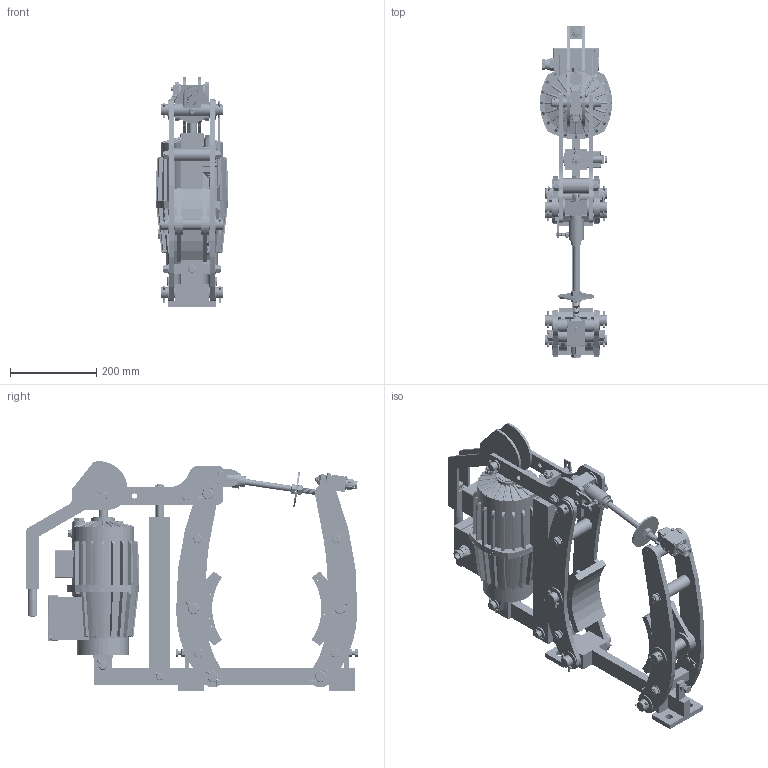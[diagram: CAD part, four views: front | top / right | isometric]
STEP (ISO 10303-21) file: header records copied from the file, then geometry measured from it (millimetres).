
FILE_DESCRIPTION((''),'2;1');
FILE_NAME('4459_254_552_E00001','2018-01-30T',('VORO'),(''),'CREO PARAMETRIC BY PTC INC, 2017170','CREO PARAMETRIC BY PTC INC, 2017170','');
FILE_SCHEMA(('CONFIG_CONTROL_DESIGN'));
Products named in the file (1): 4459_254_552_E00001
Bounding box: 168.01 x 770 x 531.5 mm (x, y, z)
Surface area: 1771922.4 mm2 (no closed solid volume)
Topology: 0 solids, 2780 shells, 3406 faces, 22061 edges, 20765 vertices
Faces by surface type: plane 1362, cylinder 1109, cone 703, torus 195, bspline 37
Entity records: 374265 total; most frequent: CARTESIAN_POINT 120725, PRESENTATION_STYLE_ASSIGNMENT 28241, STYLED_ITEM 24835, DIRECTION 23421, ORIENTED_EDGE 23352, CURVE_STYLE 22055, EDGE_CURVE 22055, VERTEX_POINT 20766
